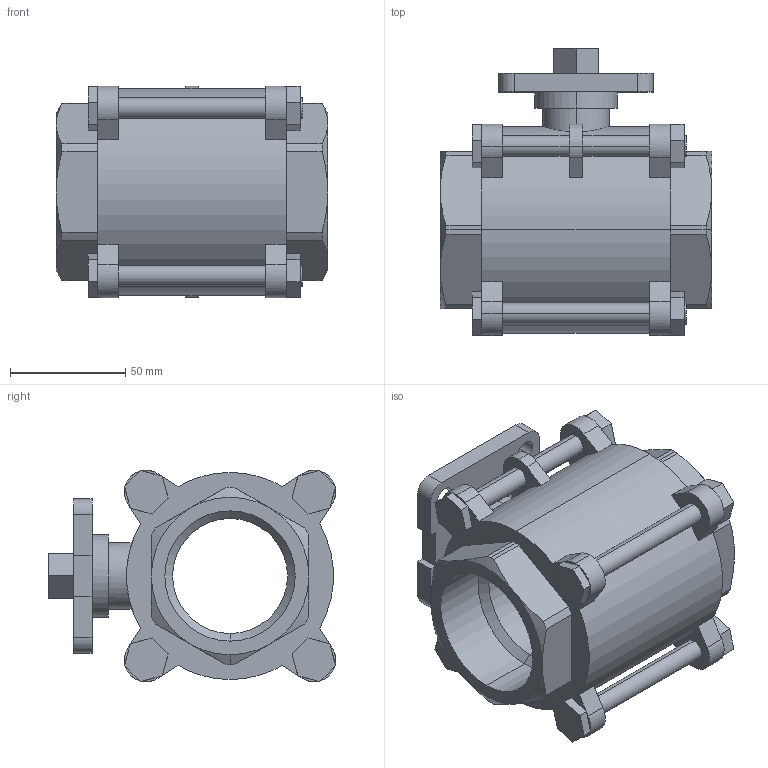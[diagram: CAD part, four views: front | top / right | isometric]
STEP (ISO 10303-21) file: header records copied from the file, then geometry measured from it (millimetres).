
FILE_DESCRIPTION (( 'STEP AP203' ), '1' );
FILE_NAME ('C3.622I0500FVPB0.STEP', '2018-10-12T14:41:39', ( '' ), ( '' ), 'SwSTEP 2.0', 'SolidWorks 2014', '' );
FILE_SCHEMA (( 'CONFIG_CONTROL_DESIGN' ));
Length unit declared in the file: millimetre
Products named in the file (1): C3.622I0500FVPB0
Bounding box: 118 x 124.91 x 91.83 mm (x, y, z)
Volume: 503303.1 mm3; surface area: 87424.3 mm2
Topology: 1 solids, 1 shells, 287 faces, 734 edges, 461 vertices
Faces by surface type: plane 192, cylinder 77, cone 18
Entity records: 8958 total; most frequent: CARTESIAN_POINT 1765, DIRECTION 1503, ORIENTED_EDGE 1468, EDGE_CURVE 734, AXIS2_PLACEMENT_3D 507, LINE 489, VECTOR 489, VERTEX_POINT 461
